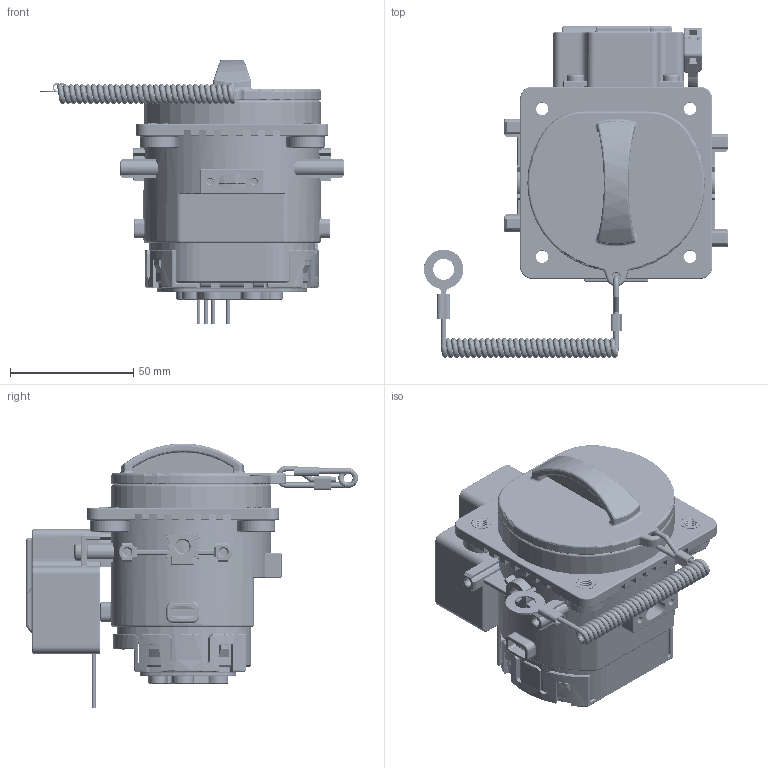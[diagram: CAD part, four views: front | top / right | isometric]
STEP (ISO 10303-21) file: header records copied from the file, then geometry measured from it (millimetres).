
FILE_DESCRIPTION((''),'2;1');
FILE_NAME('ASM0001_ASM_ASM','2023-06-15T14:44:35',('yanzk'),(''),'CREO PARAMETRIC BY PTC INC, 2019224','CREO PARAMETRIC BY PTC INC, 2019224','');
FILE_SCHEMA(('CONFIG_CONTROL_DESIGN'));
Products named in the file (16): 21G0-00214-C_11; 85850048_47_3_1_1_AF0_18; 85850049_14_2_1_1_18; 85850042_5_2_1_1_18; 85850047_31_2_1_1_18; 85880013_2_1_1_18; LSL1-12IE5C5_ASM_2_ASM_1_1_AF0__ASM; 21G0-00062-84_ASM_18_ASM; 21G0-00214-34_18; 21G0-00062-42_18; 9322-00021_18; 9322-00127_18; 21G0-00214-B2_ASM_18_ASM; Q2713513T30_18; ASM0001_ASM_1_ASM; ASM0001_ASM_ASM
Assembly tree (18 placements, depth 5):
  ASM0001_ASM_ASM
    ASM0001_ASM_1_ASM
      21G0-00214-C_11
      21G0-00062-84_ASM_18_ASM
        LSL1-12IE5C5_ASM_2_ASM_1_1_AF0__ASM
          85850048_47_3_1_1_AF0_18
          85850049_14_2_1_1_18
          85850042_5_2_1_1_18  x2
          85850047_31_2_1_1_18  x2
          85880013_2_1_1_18
      21G0-00214-B2_ASM_18_ASM
        21G0-00214-34_18
        21G0-00062-42_18
        9322-00021_18
        9322-00127_18
      Q2713513T30_18  x2
Bounding box: 123.38 x 134.7 x 107.46 mm (x, y, z)
Volume: 325528 mm3; surface area: 119370.5 mm2
Topology: 14 solids, 15 shells, 6171 faces, 16930 edges, 10892 vertices
Faces by surface type: plane 3568, cylinder 1693, torus 517, cone 138, bspline 136, sphere 110, extrusion 9
Entity records: 219839 total; most frequent: CARTESIAN_POINT 64887, ORIENTED_EDGE 33010, DIRECTION 31874, EDGE_CURVE 16505, VECTOR 11296, LINE 11287, VERTEX_POINT 10651, AXIS2_PLACEMENT_3D 10289
